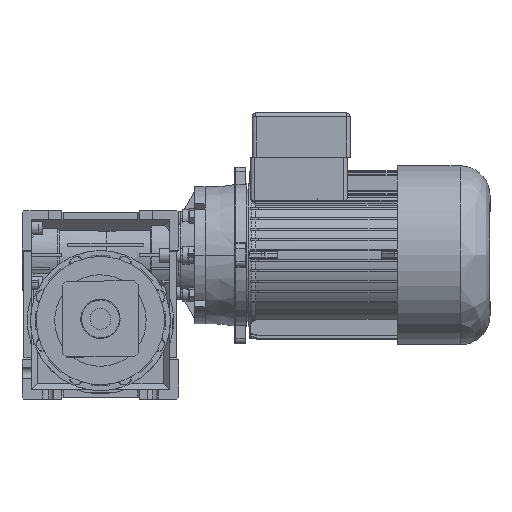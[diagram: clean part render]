
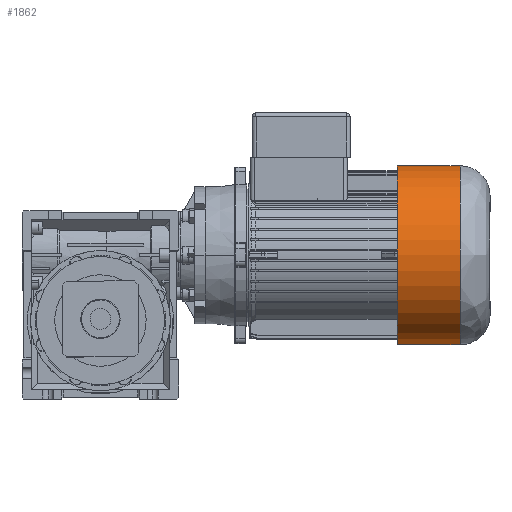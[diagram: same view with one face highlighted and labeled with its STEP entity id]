
A CAD part, top view. The second image highlights one B-rep face of the part: STEP entity #1862.
In plain terms, the highlighted cylindrical face has radius 68.5 mm (diameter 137 mm), a partial arc.
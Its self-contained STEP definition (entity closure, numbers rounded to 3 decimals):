
#171 = DIRECTION ( 'NONE',  ( 0., 0., -1. ) ) ;
#349 = AXIS2_PLACEMENT_3D ( 'NONE', #60952, #20590, #67759 ) ;
#1126 = ORIENTED_EDGE ( 'NONE', *, *, #62459, .T. ) ;
#1862 = ADVANCED_FACE ( 'NONE', ( #2240 ), #81414, .T. ) ;
#2240 = FACE_OUTER_BOUND ( 'NONE', #63284, .T. ) ;
#3127 = CARTESIAN_POINT ( 'NONE',  ( 0., -68.5, -177. ) ) ;
#3353 = LINE ( 'NONE', #5640, #39226 ) ;
#5640 = CARTESIAN_POINT ( 'NONE',  ( 0., 68.5, -248. ) ) ;
#10803 = EDGE_CURVE ( 'NONE', #30464, #71465, #3353, .T. ) ;
#15549 = CARTESIAN_POINT ( 'NONE',  ( 0., 68.5, -225.167 ) ) ;
#18134 = EDGE_CURVE ( 'NONE', #81641, #71465, #20514, .T. ) ;
#20514 = CIRCLE ( 'NONE', #70037, 68.5 ) ;
#20590 = DIRECTION ( 'NONE',  ( 0., 0., -1. ) ) ;
#21856 = CIRCLE ( 'NONE', #349, 68.5 ) ;
#25597 = AXIS2_PLACEMENT_3D ( 'NONE', #46195, #68306, #27914 ) ;
#27914 = DIRECTION ( 'NONE',  ( 0., 1., 0. ) ) ;
#28326 = ORIENTED_EDGE ( 'NONE', *, *, #10803, .F. ) ;
#30464 = VERTEX_POINT ( 'NONE', #65491 ) ;
#31418 = DIRECTION ( 'NONE',  ( 0., 0., 1. ) ) ;
#33281 = EDGE_CURVE ( 'NONE', #75456, #81641, #76574, .T. ) ;
#39226 = VECTOR ( 'NONE', #52793, 1000. ) ;
#46195 = CARTESIAN_POINT ( 'NONE',  ( 0., 0., -248. ) ) ;
#52793 = DIRECTION ( 'NONE',  ( 0., 0., -1. ) ) ;
#58573 = VECTOR ( 'NONE', #171, 1000. ) ;
#60952 = CARTESIAN_POINT ( 'NONE',  ( 0., 0., -177. ) ) ;
#62459 = EDGE_CURVE ( 'NONE', #30464, #75456, #21856, .T. ) ;
#63284 = EDGE_LOOP ( 'NONE', ( #1126, #70872, #72668, #28326 ) ) ;
#65491 = CARTESIAN_POINT ( 'NONE',  ( 0., 68.5, -177. ) ) ;
#67759 = DIRECTION ( 'NONE',  ( 0., 1., 0. ) ) ;
#68306 = DIRECTION ( 'NONE',  ( 0., 0., -1. ) ) ;
#70037 = AXIS2_PLACEMENT_3D ( 'NONE', #71816, #31418, #78639 ) ;
#70872 = ORIENTED_EDGE ( 'NONE', *, *, #33281, .T. ) ;
#71465 = VERTEX_POINT ( 'NONE', #15549 ) ;
#71816 = CARTESIAN_POINT ( 'NONE',  ( 0., 0., -225.167 ) ) ;
#72668 = ORIENTED_EDGE ( 'NONE', *, *, #18134, .T. ) ;
#74213 = CARTESIAN_POINT ( 'NONE',  ( 0., -68.5, -248. ) ) ;
#75456 = VERTEX_POINT ( 'NONE', #3127 ) ;
#76574 = LINE ( 'NONE', #74213, #58573 ) ;
#78639 = DIRECTION ( 'NONE',  ( 0., 1., 0. ) ) ;
#81414 = CYLINDRICAL_SURFACE ( 'NONE', #25597, 68.5 ) ;
#81641 = VERTEX_POINT ( 'NONE', #83339 ) ;
#83339 = CARTESIAN_POINT ( 'NONE',  ( 0., -68.5, -225.167 ) ) ;
